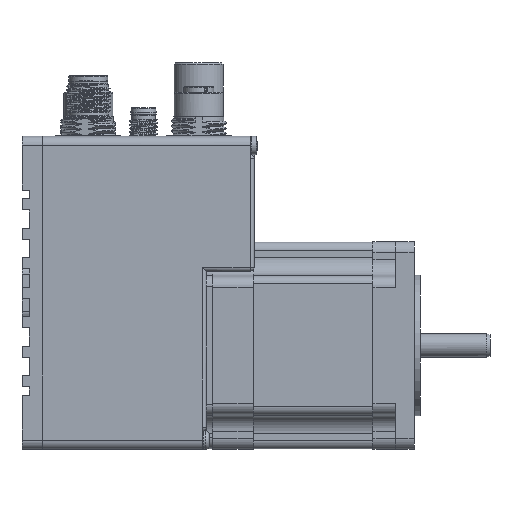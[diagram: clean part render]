
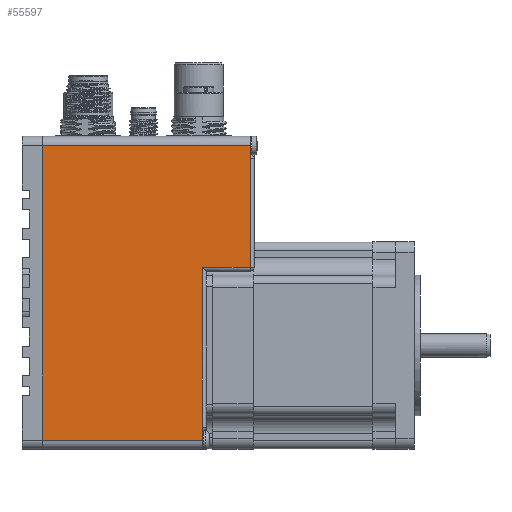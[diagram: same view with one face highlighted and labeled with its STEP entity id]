
A CAD part, left-side view. The second image highlights one B-rep face of the part: STEP entity #55597.
In plain terms, the highlighted planar face has unit normal (-1, 0, 0) as drawn and (0, -1, 0) by its records, which use the part's own axes.
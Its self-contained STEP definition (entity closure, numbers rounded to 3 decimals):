
#1119=B_SPLINE_CURVE_WITH_KNOTS('',3,(#91063,#91064,#91065,#91066),
 .UNSPECIFIED.,.F.,.F.,(4,4),(-0.026,1.),
 .UNSPECIFIED.);
#1125=B_SPLINE_CURVE_WITH_KNOTS('',3,(#91108,#91109,#91110,#91111),
 .UNSPECIFIED.,.F.,.F.,(4,4),(-0.571,0.429),
 .UNSPECIFIED.);
#1170=B_SPLINE_CURVE_WITH_KNOTS('',3,(#91364,#91365,#91366,#91367),
 .UNSPECIFIED.,.F.,.F.,(4,4),(0.,1.),.UNSPECIFIED.);
#1171=B_SPLINE_CURVE_WITH_KNOTS('',3,(#91369,#91370,#91371,#91372),
 .UNSPECIFIED.,.F.,.F.,(4,4),(0.,1.),.UNSPECIFIED.);
#1172=B_SPLINE_CURVE_WITH_KNOTS('',3,(#91374,#91375,#91376,#91377),
 .UNSPECIFIED.,.F.,.F.,(4,4),(0.,1.),.UNSPECIFIED.);
#1173=B_SPLINE_CURVE_WITH_KNOTS('',3,(#91379,#91380,#91381,#91382),
 .UNSPECIFIED.,.F.,.F.,(4,4),(0.,1.),.UNSPECIFIED.);
#1174=B_SPLINE_CURVE_WITH_KNOTS('',3,(#91384,#91385,#91386,#91387),
 .UNSPECIFIED.,.F.,.F.,(4,4),(0.,1.072),.UNSPECIFIED.);
#8384=ORIENTED_EDGE('',*,*,#24125,.T.);
#8385=ORIENTED_EDGE('',*,*,#24126,.T.);
#8386=ORIENTED_EDGE('',*,*,#24127,.T.);
#8387=ORIENTED_EDGE('',*,*,#24128,.T.);
#8388=ORIENTED_EDGE('',*,*,#24072,.F.);
#8389=ORIENTED_EDGE('',*,*,#24129,.T.);
#8390=ORIENTED_EDGE('',*,*,#24060,.T.);
#8391=ORIENTED_EDGE('',*,*,#24124,.F.);
#24060=EDGE_CURVE('',#32151,#32150,#1119,.T.);
#24072=EDGE_CURVE('',#32162,#32155,#1125,.T.);
#24124=EDGE_CURVE('',#32194,#32150,#1170,.F.);
#24125=EDGE_CURVE('',#32194,#32195,#1171,.T.);
#24126=EDGE_CURVE('',#32195,#32196,#1172,.T.);
#24127=EDGE_CURVE('',#32196,#32197,#1173,.T.);
#24128=EDGE_CURVE('',#32197,#32155,#1174,.T.);
#24129=EDGE_CURVE('',#32162,#32151,#38162,.F.);
#32150=VERTEX_POINT('',#91062);
#32151=VERTEX_POINT('',#91067);
#32155=VERTEX_POINT('',#91088);
#32162=VERTEX_POINT('',#91107);
#32194=VERTEX_POINT('',#91363);
#32195=VERTEX_POINT('',#91373);
#32196=VERTEX_POINT('',#91378);
#32197=VERTEX_POINT('',#91383);
#38162=LINE('',#91388,#42485);
#42485=VECTOR('',#78022,1000.);
#46291=EDGE_LOOP('',(#8384,#8385,#8386,#8387,#8388,#8389,#8390,#8391));
#50167=FACE_BOUND('',#46291,.T.);
#53918=PLANE('',#72266);
#55597=ADVANCED_FACE('',(#50167),#53918,.T.);
#72266=AXIS2_PLACEMENT_3D('',#91368,#78020,#78021);
#78020=DIRECTION('',(0.,-1.,0.));
#78021=DIRECTION('',(1.,0.,0.));
#78022=DIRECTION('',(0.,0.,1.));
#91062=CARTESIAN_POINT('',(44.,-28.2,0.));
#91063=CARTESIAN_POINT('',(-36.,-28.2,0.));
#91064=CARTESIAN_POINT('',(-9.333,-28.2,0.));
#91065=CARTESIAN_POINT('',(17.333,-28.2,0.));
#91066=CARTESIAN_POINT('',(44.,-28.2,0.));
#91067=CARTESIAN_POINT('',(-36.,-28.2,0.));
#91088=CARTESIAN_POINT('',(-32.5,-28.2,56.5));
#91107=CARTESIAN_POINT('',(-36.,-28.2,56.5));
#91108=CARTESIAN_POINT('',(-36.,-28.2,56.5));
#91109=CARTESIAN_POINT('',(-34.833,-28.2,56.5));
#91110=CARTESIAN_POINT('',(-33.667,-28.2,56.5));
#91111=CARTESIAN_POINT('',(-32.5,-28.2,56.5));
#91363=CARTESIAN_POINT('',(44.,-28.2,43.5));
#91364=CARTESIAN_POINT('',(44.,-28.2,0.));
#91365=CARTESIAN_POINT('',(44.,-28.2,14.5));
#91366=CARTESIAN_POINT('',(44.,-28.2,29.));
#91367=CARTESIAN_POINT('',(44.,-28.2,43.5));
#91368=CARTESIAN_POINT('',(-36.5,-28.2,0.));
#91369=CARTESIAN_POINT('',(44.,-28.2,43.5));
#91370=CARTESIAN_POINT('',(42.833,-28.2,43.5));
#91371=CARTESIAN_POINT('',(41.667,-28.2,43.5));
#91372=CARTESIAN_POINT('',(40.5,-28.2,43.5));
#91373=CARTESIAN_POINT('',(40.5,-28.2,43.5));
#91374=CARTESIAN_POINT('',(40.5,-28.2,43.5));
#91375=CARTESIAN_POINT('',(26.033,-28.2,43.5));
#91376=CARTESIAN_POINT('',(11.567,-28.2,43.5));
#91377=CARTESIAN_POINT('',(-2.9,-28.2,43.5));
#91378=CARTESIAN_POINT('',(-2.9,-28.2,43.5));
#91379=CARTESIAN_POINT('',(-2.9,-28.2,43.5));
#91380=CARTESIAN_POINT('',(-2.9,-28.2,47.833));
#91381=CARTESIAN_POINT('',(-2.9,-28.2,52.167));
#91382=CARTESIAN_POINT('',(-2.9,-28.2,56.5));
#91383=CARTESIAN_POINT('',(-2.9,-28.2,56.5));
#91384=CARTESIAN_POINT('',(-2.9,-28.2,56.5));
#91385=CARTESIAN_POINT('',(-12.767,-28.2,56.5));
#91386=CARTESIAN_POINT('',(-22.633,-28.2,56.5));
#91387=CARTESIAN_POINT('',(-32.5,-28.2,56.5));
#91388=CARTESIAN_POINT('',(-36.,-28.2,0.));
